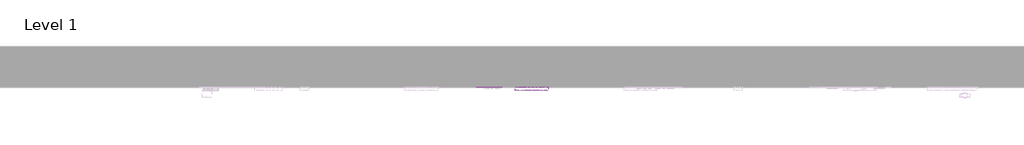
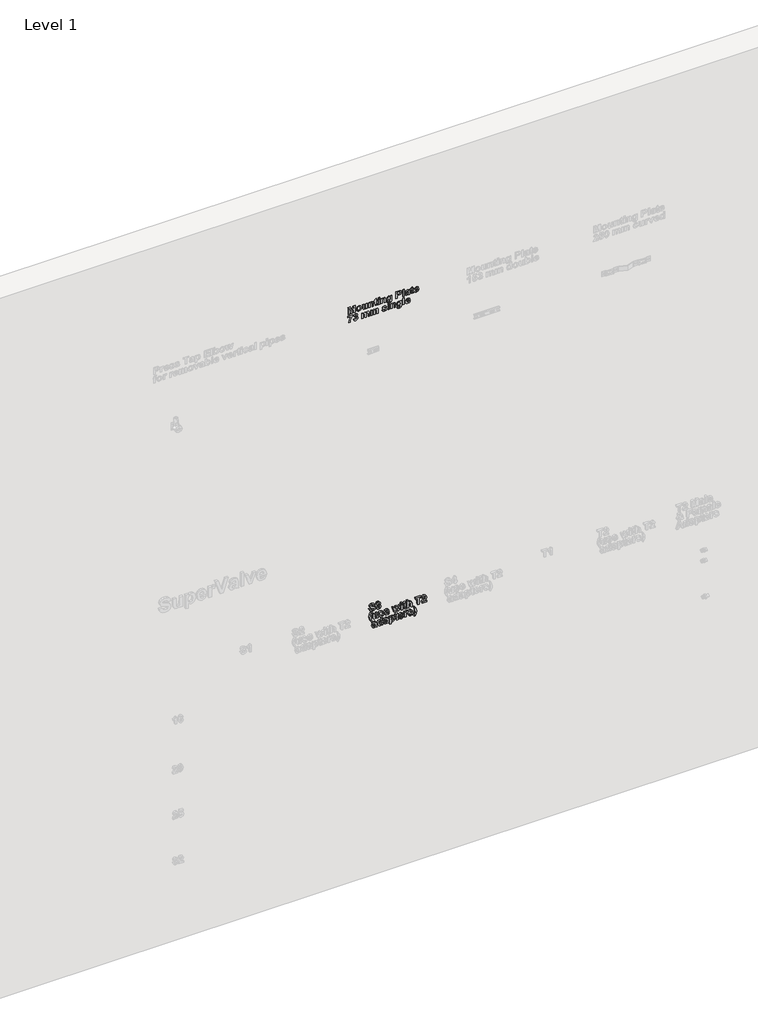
# One storey, part 14 of 58: 2 proxies.
"""IFC4 building model written with IfcOpenShell, lengths in millimetres."""

from ifc_helpers import new_model, si_unit, frame, origin, place, context, project, spatial, polyline, outline, extrude, element, save

model = new_model("IFC4")

# Units and contexts
model_context = context("Model", 3, world=origin())
ifc_project = project(units=[si_unit("LENGTHUNIT", "METRE", prefix="MILLI")], contexts=[model_context])

# Site, building, storey
site = spatial("IfcSite", under=ifc_project)
building = spatial("IfcBuilding", under=site)
storey = spatial("IfcBuildingStorey", under=building, Name="Level 1", Elevation=27.3876384)

# Proxies
placement = place(None, origin())
element("IfcBuildingElementProxy", 1, Name="50mm Arial", ObjectType="50mm Arial", at=placement, inside=storey, context=model_context, shape_type="SweptSolid", body=[
    extrude(outline(polyline([(4250.1944926, 12861.9327585), (4250.1944926, 12871.6495147), (4290.352024, 12872.0543795), (4250.1944926, 12880.948754), (4250.1944926, 12892.3229256), (4290.352024, 12901.2046481), (4250.1944926, 12901.6095129), (4250.1944926, 12911.3262691), (4301.2074626, 12911.3262691), (4301.2074626, 12894.6762025), (4266.4143903, 12886.6295138), (4301.2074626, 12878.5828251), (4301.2074626, 12861.9327585), (4250.1944926, 12861.9327585)])), frame((0.0, 4542.8703674, 0.0), z_axis=(0.0, 1.0, 0.0), x_axis=(0.0, 0.0, 1.0)), (0.0, 0.0, 1.0), 2.0),
    extrude(outline(polyline([(4269.3496604, 12918.6138363), (4258.4689177, 12921.0113952), (4251.6937577, 12928.0079658), (4249.3847629, 12937.6804399), (4254.9326764, 12951.2687161), (4268.9194915, 12956.6711313), (4282.7734602, 12951.3256502), (4288.2517876, 12937.6045277), (4285.8352506, 12927.7992073), (4278.8323541, 12921.0113952), (4269.3496604, 12918.6138363)]), holes=[polyline([(4268.8182753, 12928.3305924), (4277.832844, 12931.019148), (4280.9642205, 12937.6551358), (4277.832844, 12944.2784716), (4268.8941874, 12946.9543751), (4259.8037065, 12944.2784716), (4256.67233, 12937.6551358), (4259.8037065, 12931.019148), (4268.8182753, 12928.3305924)])]), frame((0.0, 4542.8703674, 0.0), z_axis=(0.0, 1.0, 0.0), x_axis=(0.0, 0.0, 1.0)), (0.0, 0.0, 1.0), 2.0),
    extrude(outline(polyline([(4250.1944926, 12987.4408593), (4250.1944926, 12997.1576155), (4287.4420579, 12997.1576155), (4287.4420579, 12987.4408593), (4271.6396771, 12987.4408593), (4261.5243821, 12986.7260198), (4258.0640529, 12984.0690943), (4256.67233, 12979.6725151), (4257.7161222, 12976.1236218), (4260.537524, 12974.2005138), (4270.2226502, 12973.6754547), (4287.4420579, 12973.6754547), (4287.4420579, 12963.9586985), (4263.896637, 12963.9586985), (4255.6538419, 12965.2239011), (4251.0295263, 12969.3231576), (4249.3847629, 12975.7124309), (4251.0611564, 12982.3610707), (4255.6601679, 12987.4408593), (4250.1944926, 12987.4408593)])), frame((0.0, 4542.8703674, 0.0), z_axis=(0.0, 1.0, 0.0), x_axis=(0.0, 0.0, 1.0)), (0.0, 0.0, 1.0), 2.0),
    extrude(outline(polyline([(4250.1944926, 13040.0732886), (4273.3223966, 13040.0732886), (4279.9457324, 13039.5608816), (4284.076619, 13037.7326638), (4287.0751492, 13033.8611437), (4288.2517876, 13028.21834), (4286.7082404, 13021.8069257), (4282.0775988, 13016.5911278), (4287.4420579, 13016.5911278), (4287.4420579, 13006.8743716), (4250.1944926, 13006.8743716), (4250.1944926, 13016.5911278), (4267.1861639, 13016.5911278), (4275.8085198, 13017.3186193), (4279.5535196, 13020.0135009), (4280.9642205, 13024.4606882), (4279.9773624, 13027.7628671), (4277.2065687, 13029.7492352), (4269.3370083, 13030.3565324), (4250.1944926, 13030.3565324), (4250.1944926, 13040.0732886)])), frame((0.0, 4542.8703674, 0.0), z_axis=(0.0, 1.0, 0.0), x_axis=(0.0, 0.0, 1.0)), (0.0, 0.0, 1.0), 2.0),
    extrude(outline(polyline([(4287.4420579, 13067.6040978), (4287.4420579, 13060.3165307), (4300.3977329, 13060.3165307), (4294.7296251, 13050.5997745), (4287.4420579, 13050.5997745), (4287.4420579, 13045.7413964), (4280.1544908, 13045.7413964), (4280.1544908, 13050.5997745), (4263.6309445, 13050.5997745), (4256.5584618, 13050.9160752), (4252.6489857, 13052.3394281), (4250.2957088, 13055.5467168), (4249.3847629, 13060.455703), (4250.7005736, 13068.4138275), (4257.60858, 13068.0089627), (4256.67233, 13063.4542332), (4257.1973891, 13061.5437772), (4258.5258519, 13060.5379412), (4264.1749816, 13060.3165307), (4280.1544908, 13060.3165307), (4280.1544908, 13067.6040978), (4287.4420579, 13067.6040978)])), frame((0.0, 4542.8703674, 0.0), z_axis=(0.0, 1.0, 0.0), x_axis=(0.0, 0.0, 1.0)), (0.0, 0.0, 1.0), 2.0),
    extrude(outline(polyline([(13082.9889618, 4542.8703674), (13073.2722056, 4542.8703674), (13073.2722056, 4544.8703674), (13082.9889618, 4544.8703674), (13082.9889618, 4542.8703674)])), frame((0.0, 0.0, 4292.300436), z_axis=(0.0, 0.0, 1.0), x_axis=(1.0, 0.0, 0.0)), (0.0, 0.0, 1.0), 8.9070265),
    extrude(outline(polyline([(13082.9889618, 4542.8703674), (13073.2722056, 4542.8703674), (13073.2722056, 4544.8703674), (13082.9889618, 4544.8703674), (13082.9889618, 4542.8703674)])), frame((0.0, 0.0, 4250.1944926), z_axis=(0.0, 0.0, 1.0), x_axis=(1.0, 0.0, 0.0)), (0.0, 0.0, 1.0), 37.2475654),
    extrude(outline(polyline([(4250.1944926, 13125.904635), (4273.3223966, 13125.904635), (4279.9457324, 13125.3922279), (4284.076619, 13123.5640101), (4287.0751492, 13119.6924901), (4288.2517876, 13114.0496863), (4286.7082404, 13107.638272), (4282.0775988, 13102.4224742), (4287.4420579, 13102.4224742), (4287.4420579, 13092.705718), (4250.1944926, 13092.705718), (4250.1944926, 13102.4224742), (4267.1861639, 13102.4224742), (4275.8085198, 13103.1499657), (4279.5535196, 13105.8448473), (4280.9642205, 13110.2920345), (4279.9773624, 13113.5942134), (4277.2065687, 13115.5805815), (4269.3370083, 13116.1878788), (4250.1944926, 13116.1878788), (4250.1944926, 13125.904635)])), frame((0.0, 4542.8703674, 0.0), z_axis=(0.0, 1.0, 0.0), x_axis=(0.0, 0.0, 1.0)), (0.0, 0.0, 1.0), 2.0),
    extrude(outline(polyline([(4247.1959623, 13134.7926834), (4238.7317567, 13138.6199214), (4235.6193583, 13151.6641605), (4236.6631504, 13159.7171752), (4239.5414864, 13164.8032898), (4244.6086229, 13167.763864), (4254.3570092, 13168.8203081), (4287.4420579, 13168.8203081), (4287.4420579, 13159.103552), (4282.3938995, 13159.103552), (4288.2517876, 13148.2228094), (4283.3111714, 13137.5002171), (4269.0080556, 13133.1922021), (4256.5331577, 13136.481729), (4251.7791588, 13141.4191822), (4250.1944926, 13147.8559006), (4256.5078537, 13159.103552), (4251.0801344, 13159.103552), (4246.550709, 13158.6733831), (4244.0582598, 13156.8514913), (4242.9069254, 13151.4617281), (4243.8178713, 13147.3498195), (4246.1458441, 13146.147877), (4247.1959623, 13134.7926834)]), holes=[polyline([(4269.3749644, 13142.9089583), (4278.1048625, 13145.154693), (4280.9642205, 13150.8670828), (4278.0479284, 13156.7692531), (4269.1092719, 13159.103552), (4260.4173298, 13156.6680369), (4257.4820597, 13150.7026065), (4260.3414176, 13145.154693), (4269.3749644, 13142.9089583)])]), frame((0.0, 4542.8703674, 0.0), z_axis=(0.0, 1.0, 0.0), x_axis=(0.0, 0.0, 1.0)), (0.0, 0.0, 1.0), 2.0),
    extrude(outline(polyline([(4250.1944926, 13197.9705767), (4250.1944926, 13207.6873329), (4269.6280049, 13207.6873329), (4269.6280049, 13214.4941231), (4270.3491704, 13225.3116055), (4272.7593814, 13230.7203468), (4277.7569318, 13235.1105999), (4285.6075141, 13236.8376015), (4295.4824207, 13233.8960054), (4300.448341, 13226.5894602), (4301.2074626, 13214.4055589), (4301.2074626, 13197.9705767), (4250.1944926, 13197.9705767)]), holes=[polyline([(4292.300436, 13207.6873329), (4292.300436, 13213.013836), (4291.9714834, 13220.9466565), (4289.8206389, 13225.3685396), (4285.4556898, 13227.1208453), (4281.67906, 13225.8746207), (4279.294153, 13222.4332695), (4278.5350314, 13213.7223494), (4278.5350314, 13207.6873329), (4292.300436, 13207.6873329)])]), frame((0.0, 4542.8703674, 0.0), z_axis=(0.0, 1.0, 0.0), x_axis=(0.0, 0.0, 1.0)), (0.0, 0.0, 1.0), 2.0),
    extrude(outline(polyline([(13254.6516545, 4542.8703674), (13244.9348983, 4542.8703674), (13244.9348983, 4544.8703674), (13254.6516545, 4544.8703674), (13254.6516545, 4542.8703674)])), frame((0.0, 0.0, 4250.1944926), z_axis=(0.0, 0.0, 1.0), x_axis=(1.0, 0.0, 0.0)), (0.0, 0.0, 1.0), 51.01297),
    extrude(outline(polyline([(4276.1058424, 13272.4657075), (4279.8887983, 13274.5153358), (4280.9642205, 13278.0452511), (4279.7116699, 13282.5936546), (4274.486383, 13283.8019231), (4272.069846, 13274.7557243), (4269.7798292, 13267.3542889), (4265.9968734, 13263.3625746), (4260.3793737, 13261.9392216), (4252.5034874, 13265.1338583), (4249.3847629, 13273.8700824), (4250.6689435, 13279.7785787), (4253.281587, 13285.3201662), (4250.1944926, 13286.2311121), (4250.1944926, 13295.9478683), (4255.1920429, 13294.0310863), (4262.429002, 13293.5186793), (4273.9170418, 13293.5186793), (4282.7291782, 13292.2787807), (4286.6892624, 13288.0023958), (4288.2517876, 13278.7537646), (4285.6707743, 13268.4486892), (4277.7253018, 13263.558681), (4276.1058424, 13272.4657075)]), holes=[polyline([(4267.1988159, 13283.8019231), (4265.4401842, 13283.8019231), (4261.1511473, 13283.4476663), (4258.2411813, 13281.2968219), (4256.67233, 13276.6535282), (4258.0197708, 13273.0666788), (4261.2144075, 13271.6559778), (4264.3141539, 13273.4146095), (4265.8513751, 13278.3235957), (4267.1988159, 13283.8019231)])]), frame((0.0, 4542.8703674, 0.0), z_axis=(0.0, 1.0, 0.0), x_axis=(0.0, 0.0, 1.0)), (0.0, 0.0, 1.0), 2.0),
    extrude(outline(polyline([(4287.4420579, 13321.0494885), (4287.4420579, 13313.7619213), (4300.3977329, 13313.7619213), (4294.7296251, 13304.0451651), (4287.4420579, 13304.0451651), (4287.4420579, 13299.186787), (4280.1544908, 13299.186787), (4280.1544908, 13304.0451651), (4263.6309445, 13304.0451651), (4256.5584618, 13304.3614658), (4252.6489857, 13305.7848187), (4250.2957088, 13308.9921074), (4249.3847629, 13313.9010936), (4250.7005736, 13321.8592181), (4257.60858, 13321.4543533), (4256.67233, 13316.8996238), (4257.1973891, 13314.9891679), (4258.5258519, 13313.9833318), (4264.1749816, 13313.7619213), (4280.1544908, 13313.7619213), (4280.1544908, 13321.0494885), (4287.4420579, 13321.0494885)])), frame((0.0, 4542.8703674, 0.0), z_axis=(0.0, 1.0, 0.0), x_axis=(0.0, 0.0, 1.0)), (0.0, 0.0, 1.0), 2.0),
    extrude(outline(polyline([(4261.5307081, 13347.770568), (4257.8236644, 13345.4805512), (4256.67233, 13341.7482035), (4259.2280393, 13336.2951801), (4266.3890862, 13334.0051634), (4266.3890862, 13358.2970539), (4282.8746765, 13353.8055845), (4288.2517876, 13340.9890819), (4283.0138487, 13329.020265), (4268.5399307, 13324.2884072), (4255.723428, 13327.8562786), (4250.9694292, 13333.5971355), (4249.3847629, 13341.7861595), (4252.0733185, 13351.6926961), (4259.9112487, 13357.4873242), (4261.5307081, 13347.770568)]), holes=[polyline([(4272.057194, 13348.5802977), (4272.057194, 13334.1696397), (4278.5729875, 13336.1939639), (4280.9642205, 13341.4065988), (4278.6931818, 13346.4168012), (4272.057194, 13348.5802977)])]), frame((0.0, 4542.8703674, 0.0), z_axis=(0.0, 1.0, 0.0), x_axis=(0.0, 0.0, 1.0)), (0.0, 0.0, 1.0), 2.0),
    extrude(outline(polyline([(4227.7253018, 12860.3132991), (4227.7253018, 12881.5940073), (4208.4246357, 12870.4159421), (4187.2388176, 12865.9814069), (4187.2388176, 12875.6981631), (4202.4592053, 12877.8869636), (4218.5399307, 12884.3584751), (4230.1544908, 12892.7024864), (4237.4420579, 12892.7024864), (4237.4420579, 12860.3132991), (4227.7253018, 12860.3132991)])), frame((0.0, 4542.8703674, 0.0), z_axis=(0.0, 1.0, 0.0), x_axis=(0.0, 0.0, 1.0)), (0.0, 0.0, 1.0), 2.0),
    extrude(outline(polyline([(4201.4976513, 12899.1803239), (4190.5979306, 12904.2348084), (4186.429088, 12915.2104412), (4191.1166637, 12926.8819354), (4202.4465532, 12931.5695112), (4210.2718315, 12928.9252377), (4214.4406742, 12921.865407), (4219.1187609, 12927.3215933), (4225.1569404, 12929.1403221), (4233.6591021, 12925.7495791), (4238.2517876, 12914.8435324), (4236.5943722, 12907.6635075), (4232.0459687, 12902.6659571), (4224.3219067, 12899.9900536), (4222.8669237, 12909.7068097), (4227.6936717, 12911.4464634), (4229.3447611, 12914.9067926), (4227.9214082, 12918.1899934), (4224.1068222, 12919.4235659), (4219.6027009, 12917.7724765), (4218.0085456, 12912.9836846), (4209.9998129, 12912.1359988), (4210.7209784, 12915.9948668), (4208.7093062, 12920.1510574), (4203.2562829, 12921.852755), (4197.4806329, 12919.9929071), (4195.3361145, 12915.4002216), (4197.2086143, 12911.0858806), (4202.6236816, 12908.8970801), (4201.4976513, 12899.1803239)])), frame((0.0, 4542.8703674, 0.0), z_axis=(0.0, 1.0, 0.0), x_axis=(0.0, 0.0, 1.0)), (0.0, 0.0, 1.0), 2.0),
    extrude(outline(polyline([(4224.486383, 12958.2905907), (4187.2388176, 12958.2905907), (4187.2388176, 12968.0073469), (4205.4703875, 12968.0073469), (4213.2071016, 12968.7664685), (4216.774973, 12971.2715697), (4218.0085456, 12975.2063498), (4217.230446, 12978.0846858), (4214.864517, 12979.6472111), (4207.7983604, 12980.1532921), (4187.2388176, 12980.1532921), (4187.2388176, 12989.8700483), (4205.2553031, 12989.8700483), (4213.0109952, 12990.6481479), (4216.7370169, 12993.1912052), (4218.0085456, 12996.955183), (4215.8830052, 13001.0291355), (4208.6840022, 13002.0159936), (4187.2388176, 13002.0159936), (4187.2388176, 13011.7327497), (4211.0372791, 13011.7327497), (4218.7423631, 13010.7458917), (4223.6323713, 13006.5960271), (4225.2961127, 12999.827193), (4223.8727598, 12993.8997187), (4219.5647448, 12988.7313659), (4223.8727598, 12984.6890435), (4225.2961127, 12978.8754375), (4219.5014847, 12968.0073469), (4224.486383, 12968.0073469), (4224.486383, 12958.2905907)])), frame((0.0, 4542.8703674, 0.0), z_axis=(0.0, 1.0, 0.0), x_axis=(0.0, 0.0, 1.0)), (0.0, 0.0, 1.0), 2.0),
    extrude(outline(polyline([(4224.486383, 13020.6397763), (4187.2388176, 13020.6397763), (4187.2388176, 13030.3565324), (4205.4703875, 13030.3565324), (4213.2071016, 13031.115654), (4216.774973, 13033.6207552), (4218.0085456, 13037.5555354), (4217.230446, 13040.4338714), (4214.864517, 13041.9963966), (4207.7983604, 13042.5024777), (4187.2388176, 13042.5024777), (4187.2388176, 13052.2192339), (4205.2553031, 13052.2192339), (4213.0109952, 13052.9973335), (4216.7370169, 13055.5403908), (4218.0085456, 13059.3043686), (4215.8830052, 13063.3783211), (4208.6840022, 13064.3651791), (4187.2388176, 13064.3651791), (4187.2388176, 13074.0819353), (4211.0372791, 13074.0819353), (4218.7423631, 13073.0950772), (4223.6323713, 13068.9452126), (4225.2961127, 13062.1763786), (4223.8727598, 13056.2489042), (4219.5647448, 13051.0805515), (4223.8727598, 13047.0382291), (4225.2961127, 13041.224623), (4219.5014847, 13030.3565324), (4224.486383, 13030.3565324), (4224.486383, 13020.6397763)])), frame((0.0, 4542.8703674, 0.0), z_axis=(0.0, 1.0, 0.0), x_axis=(0.0, 0.0, 1.0)), (0.0, 0.0, 1.0), 2.0),
    extrude(outline(polyline([(4197.7653035, 13099.1835555), (4189.4782263, 13104.8579892), (4186.429088, 13116.6306997), (4190.0918496, 13129.0107074), (4198.8533778, 13133.1922021), (4206.1535969, 13130.3075401), (4210.493242, 13120.0404208), (4213.2134276, 13111.4433689), (4214.9720593, 13110.519771), (4216.9457754, 13111.4433689), (4218.0085456, 13116.0613585), (4216.755995, 13119.9834867), (4213.1501675, 13121.8559866), (4214.7696268, 13131.5727428), (4222.6391872, 13126.6764086), (4225.2961127, 13115.808318), (4222.0065859, 13104.4594504), (4213.896637, 13100.8030148), (4205.5336476, 13105.0667477), (4200.7764858, 13119.6292299), (4199.4986311, 13122.8048885), (4197.6767393, 13123.4754459), (4195.095726, 13122.2102433), (4193.7166551, 13116.6306997), (4195.1589861, 13111.3864348), (4199.3847629, 13108.9003116), (4197.7653035, 13099.1835555)])), frame((0.0, 4542.8703674, 0.0), z_axis=(0.0, 1.0, 0.0), x_axis=(0.0, 0.0, 1.0)), (0.0, 0.0, 1.0), 2.0),
    extrude(outline(polyline([(13151.8159848, 4542.8703674), (13142.0992286, 4542.8703674), (13142.0992286, 4544.8703674), (13151.8159848, 4544.8703674), (13151.8159848, 4542.8703674)])), frame((0.0, 0.0, 4187.2388176), z_axis=(0.0, 0.0, 1.0), x_axis=(1.0, 0.0, 0.0)), (0.0, 0.0, 1.0), 37.2475654),
    extrude(outline(polyline([(13151.8159848, 4542.8703674), (13142.0992286, 4542.8703674), (13142.0992286, 4544.8703674), (13151.8159848, 4544.8703674), (13151.8159848, 4542.8703674)])), frame((0.0, 0.0, 4229.3447611), z_axis=(0.0, 0.0, 1.0), x_axis=(1.0, 0.0, 0.0)), (0.0, 0.0, 1.0), 8.9070265),
    extrude(outline(polyline([(4187.2388176, 13194.731658), (4210.3667217, 13194.731658), (4216.9900575, 13194.2192509), (4221.120944, 13192.3910331), (4224.1194743, 13188.5195131), (4225.2961127, 13182.8767094), (4223.7525655, 13176.465295), (4219.1219239, 13171.2494972), (4224.486383, 13171.2494972), (4224.486383, 13161.532741), (4187.2388176, 13161.532741), (4187.2388176, 13171.2494972), (4204.2304889, 13171.2494972), (4212.8528449, 13171.9769887), (4216.5978446, 13174.6718703), (4218.0085456, 13179.1190575), (4217.0216875, 13182.4212364), (4214.2508938, 13184.4076045), (4206.3813334, 13185.0149018), (4187.2388176, 13185.0149018), (4187.2388176, 13194.731658)])), frame((0.0, 4542.8703674, 0.0), z_axis=(0.0, 1.0, 0.0), x_axis=(0.0, 0.0, 1.0)), (0.0, 0.0, 1.0), 2.0),
    extrude(outline(polyline([(4184.2402874, 13203.6197065), (4175.7760818, 13207.4469444), (4172.6636833, 13220.4911835), (4173.7074755, 13228.5441982), (4176.5858115, 13233.6303128), (4181.652948, 13236.590887), (4191.4013343, 13237.6473312), (4224.486383, 13237.6473312), (4224.486383, 13227.930575), (4219.4382245, 13227.930575), (4225.2961127, 13217.0498324), (4220.3554964, 13206.3272401), (4206.0523807, 13202.0192251), (4193.5774828, 13205.308752), (4188.8234839, 13210.2462052), (4187.2388176, 13216.6829236), (4193.5521788, 13227.930575), (4188.1244595, 13227.930575), (4183.5950341, 13227.5004061), (4181.1025849, 13225.6785143), (4179.9512505, 13220.2887511), (4180.8621964, 13216.1768425), (4183.1901692, 13214.9749001), (4184.2402874, 13203.6197065)]), holes=[polyline([(4206.4192895, 13211.7359813), (4215.1491876, 13213.981716), (4218.0085456, 13219.6941059), (4215.0922535, 13225.5962761), (4206.1535969, 13227.930575), (4197.4616549, 13225.4950599), (4194.5263848, 13219.5296295), (4197.3857427, 13213.981716), (4206.4192895, 13211.7359813)])]), frame((0.0, 4542.8703674, 0.0), z_axis=(0.0, 1.0, 0.0), x_axis=(0.0, 0.0, 1.0)), (0.0, 0.0, 1.0), 2.0),
    extrude(outline(polyline([(13257.0808435, 4542.8703674), (13247.3640874, 4542.8703674), (13247.3640874, 4544.8703674), (13257.0808435, 4544.8703674), (13257.0808435, 4542.8703674)])), frame((0.0, 0.0, 4187.2388176), z_axis=(0.0, 0.0, 1.0), x_axis=(1.0, 0.0, 0.0)), (0.0, 0.0, 1.0), 51.01297),
    extrude(outline(polyline([(4198.5750332, 13287.8505715), (4194.8679895, 13285.5605547), (4193.7166551, 13281.828207), (4196.2723644, 13276.3751836), (4203.4334113, 13274.0851669), (4203.4334113, 13298.3770573), (4219.9190015, 13293.885588), (4225.2961127, 13281.0690854), (4220.0581738, 13269.1002685), (4205.5842558, 13264.3684107), (4192.7677531, 13267.9362821), (4188.0137542, 13273.677139), (4186.429088, 13281.866163), (4189.1176435, 13291.7726996), (4196.9555738, 13297.5673277), (4198.5750332, 13287.8505715)]), holes=[polyline([(4209.1015191, 13288.6603012), (4209.1015191, 13274.2496432), (4215.6173126, 13276.2739674), (4218.0085456, 13281.4866023), (4215.7375068, 13286.4968047), (4209.1015191, 13288.6603012)])]), frame((0.0, 4542.8703674, 0.0), z_axis=(0.0, 1.0, 0.0), x_axis=(0.0, 0.0, 1.0)), (0.0, 0.0, 1.0), 2.0),
])
element("IfcBuildingElementProxy", 2, Name="50mm Arial", ObjectType="50mm Arial", at=placement, inside=storey, context=model_context, shape_type="SweptSolid", body=[
    extrude(outline(polyline([(2015.3683498, 13005.4184939), (2002.1027003, 13011.5800307), (1997.5542968, 13026.3829014), (1999.4014927, 13037.4344464), (2005.0442964, 13044.2918446), (2013.1922013, 13046.7147077), (2021.2515421, 13044.6650794), (2026.3945908, 13038.9969716), (2029.9877662, 13027.8189064), (2033.3089231, 13018.2982566), (2036.3580615, 13016.7547094), (2039.4704599, 13018.4500809), (2041.2796997, 13025.712344), (2039.5780021, 13032.449548), (2033.9921325, 13035.3784921), (2033.9921325, 13045.0952483), (2045.771169, 13040.0154597), (2050.1867262, 13025.5984758), (2048.4154425, 13015.590723), (2043.2660678, 13009.2394058), (2036.0038047, 13007.0379532), (2025.7683154, 13011.8330712), (2020.7960691, 13023.7006718), (2018.6325726, 13032.1269214), (2016.4500981, 13035.9162032), (2013.4072858, 13036.9979515), (2008.5425817, 13034.3916341), (2006.4613233, 13026.6359419), (2008.8146002, 13018.9308579), (2016.1780795, 13015.13525), (2015.3683498, 13005.4184939)])), frame((0.0, 4529.8703674, 0.0), z_axis=(0.0, 1.0, 0.0), x_axis=(0.0, 0.0, 1.0)), (0.0, 0.0, 1.0), 15.0),
    extrude(outline(polyline([(2012.6228601, 13053.1925451), (2001.7231395, 13058.2470296), (1997.5542968, 13069.2226624), (2002.2418726, 13080.8941567), (2013.5717621, 13085.5817324), (2021.3970404, 13082.9374589), (2025.565883, 13075.8776283), (2030.2439697, 13081.3338146), (2036.2821493, 13083.1525434), (2044.784311, 13079.7618003), (2049.3769965, 13068.8557537), (2047.7195811, 13061.6757288), (2043.1711776, 13056.6781784), (2035.4471156, 13054.0022748), (2033.9921325, 13063.719031), (2038.8188806, 13065.4586846), (2040.46997, 13068.9190138), (2039.046617, 13072.2022146), (2035.2320311, 13073.4357872), (2030.7279098, 13071.7846978), (2029.1337544, 13066.9959058), (2021.1250218, 13066.14822), (2021.8461873, 13070.0070881), (2019.8345151, 13074.1632787), (2014.3814918, 13075.8649762), (2008.6058418, 13074.0051284), (2006.4613233, 13069.4124428), (2008.3338232, 13065.0981019), (2013.7488905, 13062.9093013), (2012.6228601, 13053.1925451)])), frame((0.0, 4529.8703674, 0.0), z_axis=(0.0, 1.0, 0.0), x_axis=(0.0, 0.0, 1.0)), (0.0, 0.0, 1.0), 15.0),
    extrude(outline(polyline([(1921.642947, 13023.2325469), (1931.5241795, 13019.449591), (1942.5377684, 13016.8812297), (1953.8676579, 13015.9449797), (1969.0500895, 13017.507505), (1986.4213216, 13023.2325469), (1986.4213216, 13016.7547094), (1972.5040927, 13009.5177504), (1954.0700904, 13006.2282235), (1937.8185626, 13008.9167791), (1921.642947, 13016.7547094), (1921.642947, 13023.2325469)])), frame((0.0, 4529.8703674, 0.0), z_axis=(0.0, 1.0, 0.0), x_axis=(0.0, 0.0, 1.0)), (0.0, 0.0, 1.0), 15.0),
    extrude(outline(polyline([(1935.4083516, 13054.8120045), (1935.4083516, 13064.5287607), (1972.655917, 13064.5287607), (1972.655917, 13054.8120045), (1956.8535361, 13054.8120045), (1946.7382411, 13054.097165), (1943.2779119, 13051.4402395), (1941.886189, 13047.0436603), (1942.9299812, 13043.494767), (1945.7513831, 13041.571659), (1955.4365092, 13041.0465999), (1972.655917, 13041.0465999), (1972.655917, 13031.3298437), (1949.1104961, 13031.3298437), (1940.8677009, 13032.5950463), (1936.2433853, 13036.6943028), (1934.5986219, 13043.0835761), (1936.2750154, 13049.7322159), (1940.8740269, 13054.8120045), (1935.4083516, 13054.8120045)])), frame((0.0, 4529.8703674, 0.0), z_axis=(0.0, 1.0, 0.0), x_axis=(0.0, 0.0, 1.0)), (0.0, 0.0, 1.0), 15.0),
    extrude(outline(polyline([(1945.9348375, 13070.1968685), (1937.6477602, 13075.8713022), (1934.5986219, 13087.6440127), (1938.2613835, 13100.0240204), (1947.0229117, 13104.2055151), (1954.3231309, 13101.3208531), (1958.6627759, 13091.0537338), (1961.3829616, 13082.4566819), (1963.1415932, 13081.533084), (1965.1153093, 13082.4566819), (1966.1780795, 13087.0746715), (1964.9255289, 13090.9967997), (1961.3197014, 13092.8692996), (1962.9391608, 13102.5860558), (1970.8087211, 13097.6897216), (1973.4656467, 13086.821631), (1970.1761198, 13075.4727634), (1962.066171, 13071.8163278), (1953.7031816, 13076.0800607), (1948.9460197, 13090.6425429), (1947.6681651, 13093.8182015), (1945.8462733, 13094.4887589), (1943.2652599, 13093.2235563), (1941.886189, 13087.6440127), (1943.32852, 13082.3997478), (1947.5542968, 13079.9136246), (1945.9348375, 13070.1968685)])), frame((0.0, 4529.8703674, 0.0), z_axis=(0.0, 1.0, 0.0), x_axis=(0.0, 0.0, 1.0)), (0.0, 0.0, 1.0), 15.0),
    extrude(outline(polyline([(1946.7445671, 13134.1655134), (1943.0375234, 13131.8754966), (1941.886189, 13128.1431489), (1944.4418984, 13122.6901255), (1951.6029452, 13120.4001088), (1951.6029452, 13144.6919992), (1968.0885355, 13140.2005299), (1973.4656467, 13127.3840273), (1968.2277078, 13115.4152104), (1953.7537897, 13110.6833526), (1940.9372871, 13114.251224), (1936.1832882, 13119.9920809), (1934.5986219, 13128.1811049), (1937.2871775, 13138.0876415), (1945.1251078, 13143.8822696), (1946.7445671, 13134.1655134)]), holes=[polyline([(1957.271053, 13134.9752431), (1957.271053, 13120.5645851), (1963.7868466, 13122.5889093), (1966.1780795, 13127.8015442), (1963.9070408, 13132.8117466), (1957.271053, 13134.9752431)])]), frame((0.0, 4529.8703674, 0.0), z_axis=(0.0, 1.0, 0.0), x_axis=(0.0, 0.0, 1.0)), (0.0, 0.0, 1.0), 15.0),
    extrude(outline(polyline([(1935.4083516, 13179.1814229), (1935.4083516, 13188.860223), (1959.3586374, 13195.3001044), (1935.4083516, 13201.9044621), (1935.4083516, 13211.4440899), (1972.655917, 13223.2357784), (1972.655917, 13213.6581945), (1948.2501583, 13206.63632), (1972.655917, 13200.2470467), (1972.655917, 13190.5049864), (1948.2501583, 13183.9638888), (1972.655917, 13176.9673183), (1972.655917, 13167.3644304), (1935.4083516, 13179.1814229)])), frame((0.0, 4529.8703674, 0.0), z_axis=(0.0, 1.0, 0.0), x_axis=(0.0, 0.0, 1.0)), (0.0, 0.0, 1.0), 15.0),
    extrude(outline(polyline([(13237.8109127, 4529.8703674), (13228.0941565, 4529.8703674), (13228.0941565, 4544.8703674), (13237.8109127, 4544.8703674), (13237.8109127, 4529.8703674)])), frame((0.0, 0.0, 1977.5142951), z_axis=(0.0, 0.0, 1.0), x_axis=(1.0, 0.0, 0.0)), (0.0, 0.0, 1.0), 8.9070265),
    extrude(outline(polyline([(13237.8109127, 4529.8703674), (13228.0941565, 4529.8703674), (13228.0941565, 4544.8703674), (13237.8109127, 4544.8703674), (13237.8109127, 4529.8703674)])), frame((0.0, 0.0, 1935.4083516), z_axis=(0.0, 0.0, 1.0), x_axis=(1.0, 0.0, 0.0)), (0.0, 0.0, 1.0), 37.2475654),
    extrude(outline(polyline([(1972.655917, 13265.3417219), (1972.655917, 13258.0541548), (1985.6115919, 13258.0541548), (1979.9434841, 13248.3373986), (1972.655917, 13248.3373986), (1972.655917, 13243.4790205), (1965.3683498, 13243.4790205), (1965.3683498, 13248.3373986), (1948.8448035, 13248.3373986), (1941.7723208, 13248.6536993), (1937.8628447, 13250.0770522), (1935.5095678, 13253.2843409), (1934.5986219, 13258.1933271), (1935.9144326, 13266.1514516), (1942.822439, 13265.7465868), (1941.886189, 13261.1918573), (1942.4112481, 13259.2814013), (1943.7397109, 13258.2755653), (1949.3888406, 13258.0541548), (1965.3683498, 13258.0541548), (1965.3683498, 13265.3417219), (1972.655917, 13265.3417219)])), frame((0.0, 4529.8703674, 0.0), z_axis=(0.0, 1.0, 0.0), x_axis=(0.0, 0.0, 1.0)), (0.0, 0.0, 1.0), 15.0),
    extrude(outline(polyline([(1986.4213216, 13280.7265859), (1986.4213216, 13271.0098297), (1935.4083516, 13271.0098297), (1935.4083516, 13280.7265859), (1954.1966106, 13280.7265859), (1961.3576575, 13281.5932497), (1964.976137, 13284.3324134), (1966.1780795, 13288.5834942), (1965.2418296, 13292.0248454), (1962.7177503, 13293.9479534), (1955.2214248, 13294.4919905), (1935.4083516, 13294.4919905), (1935.4083516, 13304.2087467), (1957.245749, 13304.2087467), (1964.6345323, 13303.7153177), (1968.9805033, 13301.8681218), (1972.20677, 13297.8447775), (1973.4656467, 13291.847717), (1967.9493632, 13280.7265859), (1986.4213216, 13280.7265859)])), frame((0.0, 4529.8703674, 0.0), z_axis=(0.0, 1.0, 0.0), x_axis=(0.0, 0.0, 1.0)), (0.0, 0.0, 1.0), 15.0),
    extrude(outline(polyline([(1935.4083516, 13344.6952308), (1935.4083516, 13354.411987), (1977.5142951, 13354.411987), (1977.5142951, 13368.9871213), (1986.4213216, 13368.9871213), (1986.4213216, 13330.1200965), (1977.5142951, 13330.1200965), (1977.5142951, 13344.6952308), (1935.4083516, 13344.6952308)])), frame((0.0, 4529.8703674, 0.0), z_axis=(0.0, 1.0, 0.0), x_axis=(0.0, 0.0, 1.0)), (0.0, 0.0, 1.0), 15.0),
    extrude(outline(polyline([(1945.1251078, 13406.2346867), (1945.1251078, 13388.1296371), (1947.7820333, 13389.9515289), (1953.3109688, 13395.4994424), (1959.68759, 13401.5407849), (1966.0768633, 13405.1086564), (1972.5040927, 13406.2346867), (1982.4296073, 13402.1227782), (1986.4213216, 13390.8118666), (1982.8597762, 13379.8678639), (1971.1123698, 13374.6552291), (1970.2267279, 13384.3719853), (1975.8252496, 13386.2444852), (1977.5142951, 13390.5967822), (1975.7999455, 13394.9427532), (1970.8846333, 13396.5179305), (1965.0393972, 13394.6454306), (1956.8914922, 13387.130127), (1944.9416534, 13376.9452458), (1935.4083516, 13373.8454994), (1935.4083516, 13406.2346867), (1945.1251078, 13406.2346867)])), frame((0.0, 4529.8703674, 0.0), z_axis=(0.0, 1.0, 0.0), x_axis=(0.0, 0.0, 1.0)), (0.0, 0.0, 1.0), 15.0),
    extrude(outline(polyline([(1898.3640265, 13035.3784921), (1902.1469824, 13037.4281204), (1903.2224046, 13040.9580357), (1901.969854, 13045.5064392), (1896.7445671, 13046.7147077), (1894.3280301, 13037.6685089), (1892.0380134, 13030.2670735), (1888.2550575, 13026.2753592), (1882.6375578, 13024.8520062), (1874.7616715, 13028.0466429), (1871.642947, 13036.782867), (1872.9271277, 13042.6913633), (1875.5397711, 13048.2329508), (1872.4526767, 13049.1438967), (1872.4526767, 13058.8606529), (1877.4502271, 13056.9438709), (1884.6871861, 13056.4314639), (1896.175226, 13056.4314639), (1904.9873623, 13055.1915653), (1908.9474465, 13050.9151804), (1910.5099717, 13041.6665492), (1907.9289584, 13031.3614738), (1899.9834859, 13026.4714656), (1898.3640265, 13035.3784921)]), holes=[polyline([(1889.457, 13046.7147077), (1887.6983683, 13046.7147077), (1883.4093314, 13046.3604509), (1880.4993654, 13044.2096065), (1878.9305141, 13039.5663128), (1880.2779549, 13035.9794634), (1883.4725916, 13034.5687624), (1886.572338, 13036.3273941), (1888.1095592, 13041.2363803), (1889.457, 13046.7147077)])]), frame((0.0, 4529.8703674, 0.0), z_axis=(0.0, 1.0, 0.0), x_axis=(0.0, 0.0, 1.0)), (0.0, 0.0, 1.0), 15.0),
    extrude(outline(polyline([(1872.4526767, 13099.347137), (1923.4656467, 13099.347137), (1923.4656467, 13089.6303808), (1905.4112051, 13089.6303808), (1910.5099717, 13079.0785909), (1905.5883335, 13068.071328), (1891.2156317, 13063.719031), (1876.8049737, 13068.0776541), (1871.642947, 13078.5472058), (1873.1675162, 13084.4999842), (1877.8171358, 13089.6303808), (1872.4526767, 13089.6303808), (1872.4526767, 13099.347137)]), holes=[polyline([(1891.7849728, 13073.4357872), (1900.3503946, 13075.76376), (1903.2224046, 13081.533084), (1900.3187646, 13087.3593421), (1890.8107668, 13089.6303808), (1881.9100663, 13087.289756), (1878.9305141, 13081.5963441), (1882.9032504, 13075.0552466), (1891.7849728, 13073.4357872)])]), frame((0.0, 4529.8703674, 0.0), z_axis=(0.0, 1.0, 0.0), x_axis=(0.0, 0.0, 1.0)), (0.0, 0.0, 1.0), 15.0),
    extrude(outline(polyline([(1898.3640265, 13117.16119), (1902.1469824, 13119.2108183), (1903.2224046, 13122.7407336), (1901.969854, 13127.2891371), (1896.7445671, 13128.4974056), (1894.3280301, 13119.4512068), (1892.0380134, 13112.0497714), (1888.2550575, 13108.0580571), (1882.6375578, 13106.6347042), (1874.7616715, 13109.8293408), (1871.642947, 13118.565565), (1872.9271277, 13124.4740612), (1875.5397711, 13130.0156488), (1872.4526767, 13130.9265946), (1872.4526767, 13140.6433508), (1877.4502271, 13138.7265689), (1884.6871861, 13138.2141618), (1896.175226, 13138.2141618), (1904.9873623, 13136.9742632), (1908.9474465, 13132.6978783), (1910.5099717, 13123.4492471), (1907.9289584, 13113.1441717), (1899.9834859, 13108.2541635), (1898.3640265, 13117.16119)]), holes=[polyline([(1889.457, 13128.4974056), (1887.6983683, 13128.4974056), (1883.4093314, 13128.1431489), (1880.4993654, 13125.9923044), (1878.9305141, 13121.3490107), (1880.2779549, 13117.7621613), (1883.4725916, 13116.3514604), (1886.572338, 13118.110092), (1888.1095592, 13123.0190782), (1889.457, 13128.4974056)])]), frame((0.0, 4529.8703674, 0.0), z_axis=(0.0, 1.0, 0.0), x_axis=(0.0, 0.0, 1.0)), (0.0, 0.0, 1.0), 15.0),
    extrude(outline(polyline([(1909.7002421, 13147.930918), (1858.6872721, 13147.930918), (1858.6872721, 13157.6476742), (1876.9694501, 13157.6476742), (1872.8448895, 13162.8097009), (1871.642947, 13168.2880283), (1876.8049737, 13179.0991847), (1891.2915438, 13183.559024), (1905.4301832, 13179.238357), (1910.5099717, 13168.7308492), (1908.8019482, 13162.2656638), (1904.3357829, 13157.6476742), (1909.7002421, 13157.6476742), (1909.7002421, 13147.930918)]), holes=[polyline([(1891.7217127, 13157.6476742), (1900.3187646, 13159.981973), (1903.2224046, 13165.8461872), (1900.2618305, 13171.545925), (1891.2029796, 13173.8422678), (1881.7961981, 13171.6091852), (1878.9305141, 13166.0233156), (1882.0555646, 13160.0831892), (1891.7217127, 13157.6476742)])]), frame((0.0, 4529.8703674, 0.0), z_axis=(0.0, 1.0, 0.0), x_axis=(0.0, 0.0, 1.0)), (0.0, 0.0, 1.0), 15.0),
    extrude(outline(polyline([(1909.7002421, 13208.6606442), (1909.7002421, 13201.373077), (1922.655917, 13201.373077), (1916.9878092, 13191.6563208), (1909.7002421, 13191.6563208), (1909.7002421, 13186.7979427), (1902.4126749, 13186.7979427), (1902.4126749, 13191.6563208), (1885.8891286, 13191.6563208), (1878.8166459, 13191.9726215), (1874.9071698, 13193.3959744), (1872.5538929, 13196.6032631), (1871.642947, 13201.5122493), (1872.9587577, 13209.4703738), (1879.8667641, 13209.065509), (1878.9305141, 13204.5107795), (1879.4555732, 13202.6003236), (1880.784036, 13201.5944875), (1886.4331657, 13201.373077), (1902.4126749, 13201.373077), (1902.4126749, 13208.6606442), (1909.7002421, 13208.6606442)])), frame((0.0, 4529.8703674, 0.0), z_axis=(0.0, 1.0, 0.0), x_axis=(0.0, 0.0, 1.0)), (0.0, 0.0, 1.0), 15.0),
    extrude(outline(polyline([(1883.7888922, 13235.3817237), (1880.0818485, 13233.0917069), (1878.9305141, 13229.3593592), (1881.4862234, 13223.9063358), (1888.6472703, 13221.6163191), (1888.6472703, 13245.9082096), (1905.1328606, 13241.4167402), (1910.5099717, 13228.6002376), (1905.2720329, 13216.6314207), (1890.7981148, 13211.8995629), (1877.9816122, 13215.4674343), (1873.2276133, 13221.2082912), (1871.642947, 13229.3973153), (1874.3315026, 13239.3038518), (1882.1694329, 13245.0984799), (1883.7888922, 13235.3817237)]), holes=[polyline([(1894.3153781, 13236.1914534), (1894.3153781, 13221.7807954), (1900.8311716, 13223.8051196), (1903.2224046, 13229.0177545), (1900.9513659, 13234.0279569), (1894.3153781, 13236.1914534)])]), frame((0.0, 4529.8703674, 0.0), z_axis=(0.0, 1.0, 0.0), x_axis=(0.0, 0.0, 1.0)), (0.0, 0.0, 1.0), 15.0),
    extrude(outline(polyline([(1872.4526767, 13262.9125329), (1883.5991118, 13262.9125329), (1895.694449, 13263.7159366), (1899.6861633, 13265.9173891), (1900.7932156, 13269.3397622), (1899.2117123, 13273.8438836), (1908.4603435, 13276.6779375), (1910.5099717, 13270.7188331), (1909.3523113, 13266.796705), (1904.5129113, 13262.9125329), (1909.7002421, 13262.9125329), (1909.7002421, 13253.1957767), (1872.4526767, 13253.1957767), (1872.4526767, 13262.9125329)])), frame((0.0, 4529.8703674, 0.0), z_axis=(0.0, 1.0, 0.0), x_axis=(0.0, 0.0, 1.0)), (0.0, 0.0, 1.0), 15.0),
    extrude(outline(polyline([(1882.9791625, 13276.6779375), (1874.6920853, 13282.3523713), (1871.642947, 13294.1250817), (1875.3057086, 13306.5050895), (1884.0672368, 13310.6865842), (1891.367456, 13307.8019222), (1895.707101, 13297.5348028), (1898.4272866, 13288.937751), (1900.1859183, 13288.0141531), (1902.1596344, 13288.937751), (1903.2224046, 13293.5557406), (1901.969854, 13297.4778687), (1898.3640265, 13299.3503686), (1899.9834859, 13309.0671248), (1907.8530462, 13304.1707906), (1910.5099717, 13293.3027), (1907.2204449, 13281.9538325), (1899.1104961, 13278.2973969), (1890.7475067, 13282.5611297), (1885.9903448, 13297.123612), (1884.7124901, 13300.2992706), (1882.8905984, 13300.969828), (1880.309585, 13299.7046253), (1878.9305141, 13294.1250817), (1880.3728451, 13288.8808169), (1884.5986219, 13286.3946937), (1882.9791625, 13276.6779375)])), frame((0.0, 4529.8703674, 0.0), z_axis=(0.0, 1.0, 0.0), x_axis=(0.0, 0.0, 1.0)), (0.0, 0.0, 1.0), 15.0),
    extrude(outline(polyline([(1858.6872721, 13317.9741513), (1858.6872721, 13324.4519888), (1876.5139771, 13332.76437), (1891.6204965, 13334.9784746), (1908.0934347, 13332.2140069), (1923.4656467, 13324.4519888), (1923.4656467, 13317.9741513), (1906.0944146, 13323.7055192), (1890.911983, 13325.2617184), (1883.206899, 13324.8315496), (1875.2677525, 13323.5094128), (1867.8852952, 13321.5736528), (1858.6872721, 13317.9741513)])), frame((0.0, 4529.8703674, 0.0), z_axis=(0.0, 1.0, 0.0), x_axis=(0.0, 0.0, 1.0)), (0.0, 0.0, 1.0), 15.0),
])

save(model, "model.ifc")
